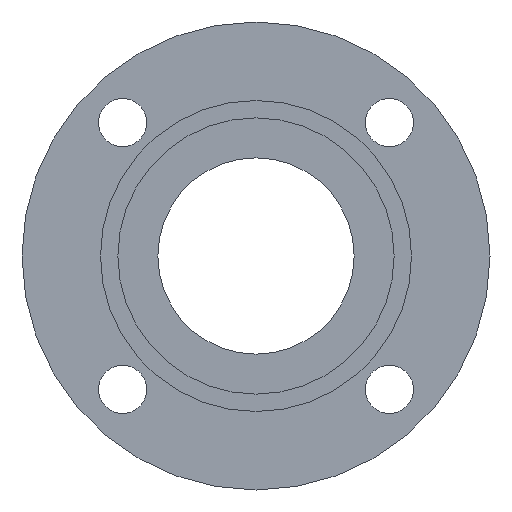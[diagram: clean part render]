
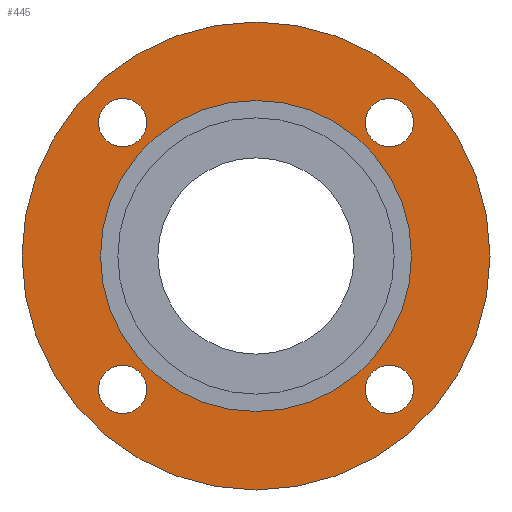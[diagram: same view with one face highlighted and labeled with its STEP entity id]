
A CAD part, left-side view. The second image highlights one B-rep face of the part: STEP entity #445.
In plain terms, the highlighted planar face has unit normal (-1, 0, 0).
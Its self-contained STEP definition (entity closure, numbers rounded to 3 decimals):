
#19=FACE_BOUND('',#82,.T.);
#20=FACE_BOUND('',#83,.T.);
#21=FACE_BOUND('',#84,.T.);
#22=FACE_BOUND('',#85,.T.);
#23=FACE_BOUND('',#86,.T.);
#41=PLANE('',#513);
#57=FACE_OUTER_BOUND('',#81,.T.);
#81=EDGE_LOOP('',(#347,#348));
#82=EDGE_LOOP('',(#349));
#83=EDGE_LOOP('',(#350));
#84=EDGE_LOOP('',(#351));
#85=EDGE_LOOP('',(#352));
#86=EDGE_LOOP('',(#353,#354));
#141=CIRCLE('',#479,3.2);
#145=CIRCLE('',#485,3.2);
#149=CIRCLE('',#491,3.2);
#153=CIRCLE('',#497,3.2);
#163=CIRCLE('',#511,20.6);
#164=CIRCLE('',#512,20.6);
#165=CIRCLE('',#514,31.);
#166=CIRCLE('',#515,31.);
#189=VERTEX_POINT('',#709);
#193=VERTEX_POINT('',#721);
#197=VERTEX_POINT('',#733);
#201=VERTEX_POINT('',#745);
#211=VERTEX_POINT('',#771);
#212=VERTEX_POINT('',#773);
#213=VERTEX_POINT('',#777);
#214=VERTEX_POINT('',#778);
#236=EDGE_CURVE('',#189,#189,#141,.T.);
#242=EDGE_CURVE('',#193,#193,#145,.T.);
#248=EDGE_CURVE('',#197,#197,#149,.T.);
#254=EDGE_CURVE('',#201,#201,#153,.T.);
#267=EDGE_CURVE('',#212,#211,#163,.T.);
#268=EDGE_CURVE('',#211,#212,#164,.T.);
#269=EDGE_CURVE('',#213,#214,#165,.T.);
#270=EDGE_CURVE('',#214,#213,#166,.T.);
#347=ORIENTED_EDGE('',*,*,#269,.F.);
#348=ORIENTED_EDGE('',*,*,#270,.F.);
#349=ORIENTED_EDGE('',*,*,#236,.T.);
#350=ORIENTED_EDGE('',*,*,#242,.T.);
#351=ORIENTED_EDGE('',*,*,#248,.T.);
#352=ORIENTED_EDGE('',*,*,#254,.T.);
#353=ORIENTED_EDGE('',*,*,#267,.T.);
#354=ORIENTED_EDGE('',*,*,#268,.T.);
#445=ADVANCED_FACE('',(#57,#19,#20,#21,#22,#23),#41,.T.);
#479=AXIS2_PLACEMENT_3D('',#710,#556,#557);
#485=AXIS2_PLACEMENT_3D('',#722,#570,#571);
#491=AXIS2_PLACEMENT_3D('',#734,#584,#585);
#497=AXIS2_PLACEMENT_3D('',#746,#598,#599);
#511=AXIS2_PLACEMENT_3D('',#774,#629,#630);
#512=AXIS2_PLACEMENT_3D('',#775,#631,#632);
#513=AXIS2_PLACEMENT_3D('',#776,#633,#634);
#514=AXIS2_PLACEMENT_3D('',#779,#635,#636);
#515=AXIS2_PLACEMENT_3D('',#780,#637,#638);
#556=DIRECTION('center_axis',(1.,0.,0.));
#557=DIRECTION('ref_axis',(0.,0.,-1.));
#570=DIRECTION('center_axis',(1.,0.,0.));
#571=DIRECTION('ref_axis',(0.,0.,-1.));
#584=DIRECTION('center_axis',(1.,0.,0.));
#585=DIRECTION('ref_axis',(0.,0.,-1.));
#598=DIRECTION('center_axis',(1.,0.,0.));
#599=DIRECTION('ref_axis',(0.,0.,-1.));
#629=DIRECTION('center_axis',(1.,0.,0.));
#630=DIRECTION('ref_axis',(0.,0.,-1.));
#631=DIRECTION('center_axis',(1.,0.,0.));
#632=DIRECTION('ref_axis',(0.,0.,-1.));
#633=DIRECTION('center_axis',(-1.,0.,0.));
#634=DIRECTION('ref_axis',(0.,0.,1.));
#635=DIRECTION('center_axis',(1.,0.,0.));
#636=DIRECTION('ref_axis',(0.,0.,-1.));
#637=DIRECTION('center_axis',(1.,0.,0.));
#638=DIRECTION('ref_axis',(0.,0.,-1.));
#709=CARTESIAN_POINT('',(0.,-17.678,20.878));
#710=CARTESIAN_POINT('Origin',(0.,-17.678,17.678));
#721=CARTESIAN_POINT('',(0.,17.678,-14.478));
#722=CARTESIAN_POINT('Origin',(0.,17.678,-17.678));
#733=CARTESIAN_POINT('',(0.,17.678,20.878));
#734=CARTESIAN_POINT('Origin',(0.,17.678,17.678));
#745=CARTESIAN_POINT('',(0.,-17.678,-14.478));
#746=CARTESIAN_POINT('Origin',(0.,-17.678,-17.678));
#771=CARTESIAN_POINT('',(0.,-20.6,0.));
#773=CARTESIAN_POINT('',(0.,20.6,0.));
#774=CARTESIAN_POINT('Origin',(0.,0.,0.));
#775=CARTESIAN_POINT('Origin',(0.,0.,0.));
#776=CARTESIAN_POINT('Origin',(0.,31.,0.));
#777=CARTESIAN_POINT('',(0.,31.,0.));
#778=CARTESIAN_POINT('',(0.,-31.,0.));
#779=CARTESIAN_POINT('Origin',(0.,0.,0.));
#780=CARTESIAN_POINT('Origin',(0.,0.,0.));
